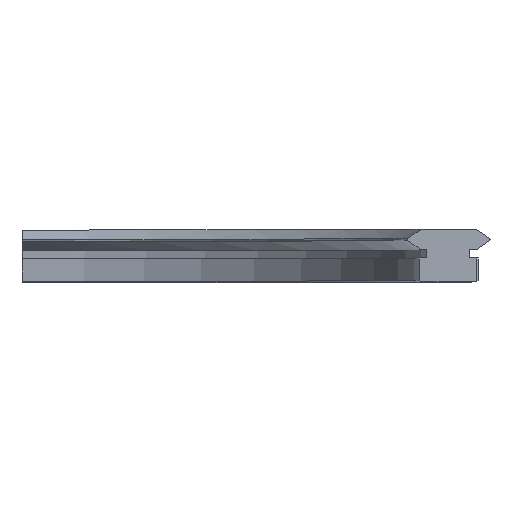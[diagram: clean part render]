
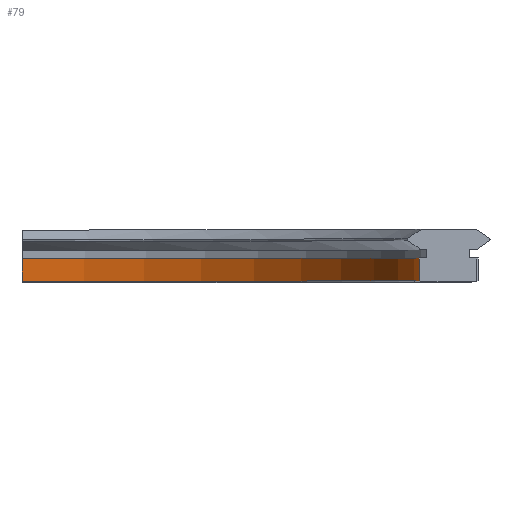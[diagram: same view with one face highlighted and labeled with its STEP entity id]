
A CAD part, top view. The second image highlights one B-rep face of the part: STEP entity #79.
In plain terms, the highlighted cylindrical face has radius 59.2 mm (diameter 118.4 mm), a partial arc.
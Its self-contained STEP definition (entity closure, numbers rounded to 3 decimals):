
#79 = ADVANCED_FACE( '', ( #442 ), #443, .F. );
#442 = FACE_OUTER_BOUND( '', #1170, .T. );
#443 = CYLINDRICAL_SURFACE( '', #1171, 59.2 );
#1170 = EDGE_LOOP( '', ( #1932, #1933, #1934, #1935 ) );
#1171 = AXIS2_PLACEMENT_3D( '', #1936, #1937, #1938 );
#1932 = ORIENTED_EDGE( '', *, *, #5099, .T. );
#1933 = ORIENTED_EDGE( '', *, *, #5100, .T. );
#1934 = ORIENTED_EDGE( '', *, *, #5101, .F. );
#1935 = ORIENTED_EDGE( '', *, *, #5080, .T. );
#1936 = CARTESIAN_POINT( '', ( 0., 0., 0. ) );
#1937 = DIRECTION( '', ( 0., 1., 0. ) );
#1938 = DIRECTION( '', ( 0., 0., -1. ) );
#5080 = EDGE_CURVE( '', #6143, #6141, #6144, .T. );
#5099 = EDGE_CURVE( '', #6141, #6177, #6179, .T. );
#5100 = EDGE_CURVE( '', #6177, #6180, #6181, .F. );
#5101 = EDGE_CURVE( '', #6143, #6180, #6182, .T. );
#6141 = VERTEX_POINT( '', #7912 );
#6143 = VERTEX_POINT( '', #7917 );
#6144 = LINE( '', #7918, #7919 );
#6177 = VERTEX_POINT( '', #7984 );
#6179 = CIRCLE( '', #7989, 59.2 );
#6180 = VERTEX_POINT( '', #7990 );
#6181 = LINE( '', #7991, #7992 );
#6182 = CIRCLE( '', #7993, 59.2 );
#7912 = CARTESIAN_POINT( '', ( 1., 0.2, -59.192 ) );
#7917 = CARTESIAN_POINT( '', ( 1., 3.5, -59.192 ) );
#7918 = CARTESIAN_POINT( '', ( 1., 0., -59.192 ) );
#7919 = VECTOR( '', #10803, 1000. );
#7984 = CARTESIAN_POINT( '', ( 59.192, 0.2, -1. ) );
#7989 = AXIS2_PLACEMENT_3D( '', #10820, #10821, #10822 );
#7990 = CARTESIAN_POINT( '', ( 59.192, 3.5, -1. ) );
#7991 = CARTESIAN_POINT( '', ( 59.192, 0., -1. ) );
#7992 = VECTOR( '', #10823, 1000. );
#7993 = AXIS2_PLACEMENT_3D( '', #10824, #10825, #10826 );
#10803 = DIRECTION( '', ( 0., -1., 0. ) );
#10820 = CARTESIAN_POINT( '', ( 0., 0.2, 0. ) );
#10821 = DIRECTION( '', ( 0., -1., 0. ) );
#10822 = DIRECTION( '', ( 0., 0., -1. ) );
#10823 = DIRECTION( '', ( 0., -1., 0. ) );
#10824 = CARTESIAN_POINT( '', ( 0., 3.5, 0. ) );
#10825 = DIRECTION( '', ( 0., -1., 0. ) );
#10826 = DIRECTION( '', ( 0., 0., -1. ) );
